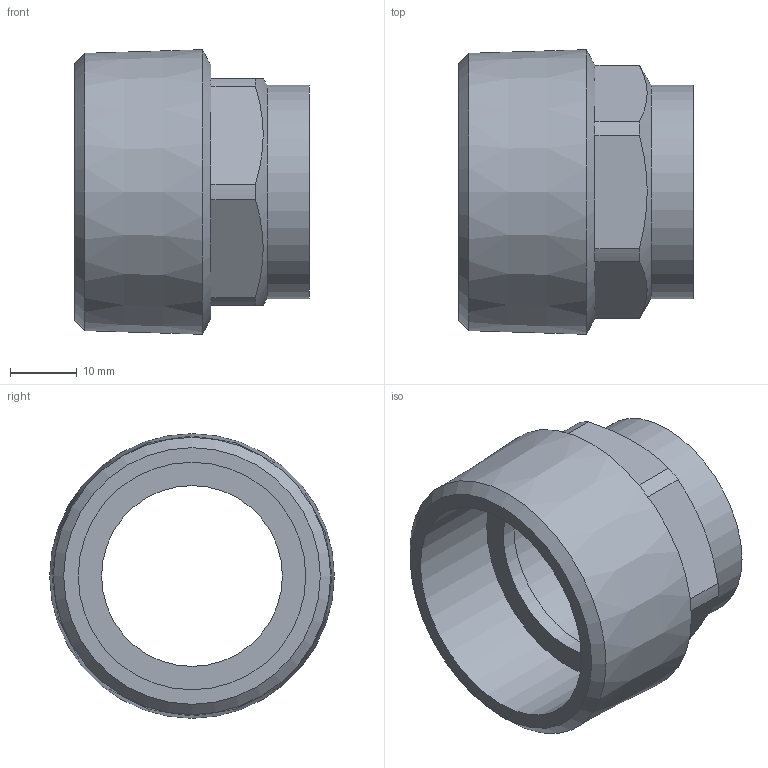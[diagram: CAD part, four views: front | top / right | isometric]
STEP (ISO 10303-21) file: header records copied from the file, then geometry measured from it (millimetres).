
FILE_DESCRIPTION((''),'2;1');
FILE_NAME('\\Lg50001\Groups\SANHA Legnica\Engineering\Public\RYSUNKI\SANHA POLSKA\4243G\step\14243_28-114(3).stp','2008-08-26T08:36:05',('pajchrowski'),(''),'Autodesk Inventor 2008','Autodesk Inventor 2008','');
FILE_SCHEMA(('AUTOMOTIVE_DESIGN { 1 0 10303 214 1 1 1 1 }'));
Length unit declared in the file: millimetre
Products named in the file (1): 14243_28-114(3)
Bounding box: 35 x 42.51 x 42.51 mm (x, y, z)
Volume: 15311.8 mm3; surface area: 8895.6 mm2
Topology: 1 solids, 1 shells, 30 faces, 63 edges, 37 vertices
Faces by surface type: plane 16, cylinder 10, cone 4
Full cylindrical faces by diameter (mm): 27 x1, 28.13 x1, 31.85 x1, 34 x1
Entity records: 762 total; most frequent: DIRECTION 138, CARTESIAN_POINT 131, ORIENTED_EDGE 106, AXIS2_PLACEMENT_3D 60, EDGE_CURVE 53, EDGE_LOOP 42, VERTEX_POINT 35, FACE_OUTER_BOUND 30
